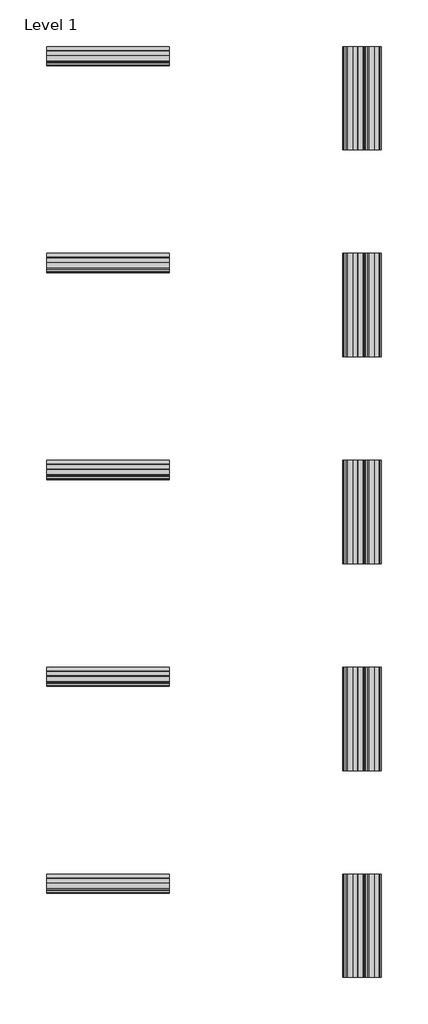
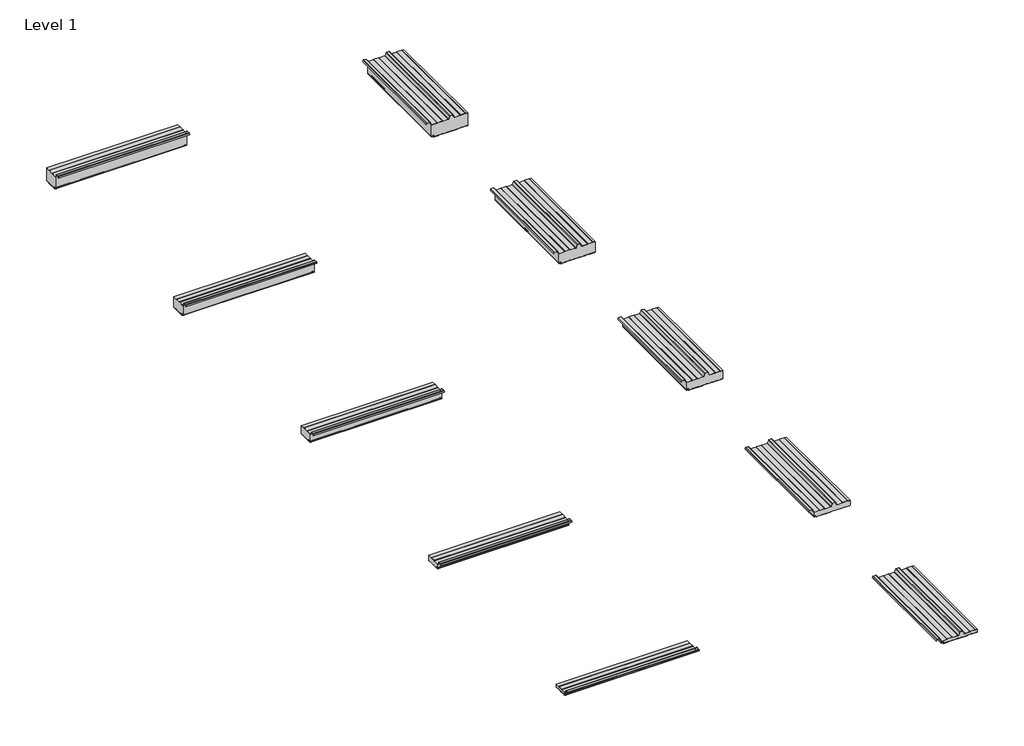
# One storey, incomplete: 10 plates.
"""IFC4 building model written with IfcOpenShell, lengths in millimetres."""

from ifc_helpers import new_model, si_unit, origin, place, context, project, spatial, transform, mapped, element, save
from components import hz_1_5_inch_2827782e, hz_2_5_inch_c16ab494, hz_4_inch_9ffb667b, hz_5_inch_f48fc165, hz_6_inch_65774ae7, vt_1_5_inch_b53bcd6c, vt_2_5_inch_24c7e1ae, vt_4_inch_39a0264b, vt_5_inch_518f901f, vt_6_inch_4dd7e068

model = new_model("IFC4")

# Units and contexts
model_context = context("Model", 3, world=origin())
ifc_project = project(units=[si_unit("LENGTHUNIT", "METRE", prefix="MILLI")], contexts=[model_context])

# Site, building, storey
site = spatial("IfcSite", under=ifc_project)
building = spatial("IfcBuilding", under=site)
storey = spatial("IfcBuildingStorey", under=building, Name="Level 1", Elevation=4000.0)

# Plates
placement = place(None, origin())
hz_1_5_inch_shape = hz_1_5_inch_2827782e(model_context)
element("IfcPlate", 1, ObjectType="AWIP_R18_CP_HR5_Hz_Roof Panel : Hz_1.5 Inch", at=placement, inside=storey, context=model_context, shape_type="MappedRepresentation", body=[
    mapped(hz_1_5_inch_shape, transform((-8454.8208327, 4582.6207172, 0.0), x_axis=(1.0, 0.0, 0.0), y_axis=(0.0, 0.0, -1.0), z_axis=(0.0, 1.0, 0.0))),
])
hz_2_5_inch_shape = hz_2_5_inch_c16ab494(model_context)
element("IfcPlate", 2, ObjectType="AWIP_R18_CP_HR5_Hz_Roof Panel : Hz_2.5 Inch", at=placement, inside=storey, context=model_context, shape_type="MappedRepresentation", body=[
    mapped(hz_2_5_inch_shape, transform((-8454.8208327, 7021.0207172, 0.0), x_axis=(1.0, 0.0, 0.0), y_axis=(0.0, 0.0, -1.0), z_axis=(0.0, 1.0, 0.0))),
])
hz_4_inch_shape = hz_4_inch_9ffb667b(model_context)
element("IfcPlate", 3, ObjectType="AWIP_R18_CP_HR5_Hz_Roof Panel : Hz_4 Inch", at=placement, inside=storey, context=model_context, shape_type="MappedRepresentation", body=[
    mapped(hz_4_inch_shape, transform((-8454.8208327, 9459.4207172, 0.0), x_axis=(1.0, 0.0, 0.0), y_axis=(0.0, 0.0, -1.0), z_axis=(0.0, 1.0, 0.0))),
])
hz_5_inch_shape = hz_5_inch_f48fc165(model_context)
element("IfcPlate", 4, ObjectType="AWIP_R18_CP_HR5_Hz_Roof Panel : Hz_5 Inch", at=placement, inside=storey, context=model_context, shape_type="MappedRepresentation", body=[
    mapped(hz_5_inch_shape, transform((-8454.8208327, 11897.8207172, 0.0), x_axis=(1.0, 0.0, 0.0), y_axis=(0.0, 0.0, -1.0), z_axis=(0.0, 1.0, 0.0))),
])
hz_6_inch_shape = hz_6_inch_65774ae7(model_context)
element("IfcPlate", 5, ObjectType="AWIP_R18_CP_HR5_Hz_Roof Panel : Hz_6 Inch", at=placement, inside=storey, context=model_context, shape_type="MappedRepresentation", body=[
    mapped(hz_6_inch_shape, transform((-8454.8208327, 14336.2207172, 0.0), x_axis=(1.0, 0.0, 0.0), y_axis=(0.0, 0.0, -1.0), z_axis=(0.0, 1.0, 0.0))),
])
vt_1_5_inch_shape = vt_1_5_inch_b53bcd6c(model_context)
element("IfcPlate", 6, ObjectType="AWIP_R18_CP_HR5_Vt_Roof Panel : Vt_1.5 Inch", at=placement, inside=storey, context=model_context, shape_type="MappedRepresentation", body=[
    mapped(vt_1_5_inch_shape, transform((-5447.0371226, 3566.6207172, 0.0), x_axis=(1.0, 0.0, 0.0), y_axis=(0.0, 0.0, -1.0), z_axis=(0.0, 1.0, 0.0))),
])
vt_2_5_inch_shape = vt_2_5_inch_24c7e1ae(model_context)
element("IfcPlate", 7, ObjectType="AWIP_R18_CP_HR5_Vt_Roof Panel : Vt_2.5 Inch", at=placement, inside=storey, context=model_context, shape_type="MappedRepresentation", body=[
    mapped(vt_2_5_inch_shape, transform((-5447.0371226, 6005.0207172, 0.0), x_axis=(1.0, 0.0, 0.0), y_axis=(0.0, 0.0, -1.0), z_axis=(0.0, 1.0, 0.0))),
])
vt_4_inch_shape = vt_4_inch_39a0264b(model_context)
element("IfcPlate", 8, ObjectType="AWIP_R18_CP_HR5_Vt_Roof Panel : Vt_4 Inch", at=placement, inside=storey, context=model_context, shape_type="MappedRepresentation", body=[
    mapped(vt_4_inch_shape, transform((-5447.0371226, 8443.4207172, 0.0), x_axis=(1.0, 0.0, 0.0), y_axis=(0.0, 0.0, -1.0), z_axis=(0.0, 1.0, 0.0))),
])
vt_5_inch_shape = vt_5_inch_518f901f(model_context)
element("IfcPlate", 9, ObjectType="AWIP_R18_CP_HR5_Vt_Roof Panel : Vt_5 Inch", at=placement, inside=storey, context=model_context, shape_type="MappedRepresentation", body=[
    mapped(vt_5_inch_shape, transform((-5447.0371226, 10881.8207172, 0.0), x_axis=(1.0, 0.0, 0.0), y_axis=(0.0, 0.0, -1.0), z_axis=(0.0, 1.0, 0.0))),
])
vt_6_inch_shape = vt_6_inch_4dd7e068(model_context)
element("IfcPlate", 10, ObjectType="AWIP_R18_CP_HR5_Vt_Roof Panel : Vt_6 Inch", at=placement, inside=storey, context=model_context, shape_type="MappedRepresentation", body=[
    mapped(vt_6_inch_shape, transform((-5447.0371226, 13320.2207172, 0.0), x_axis=(1.0, 0.0, 0.0), y_axis=(0.0, 0.0, -1.0), z_axis=(0.0, 1.0, 0.0))),
])

save(model, "model.ifc")
